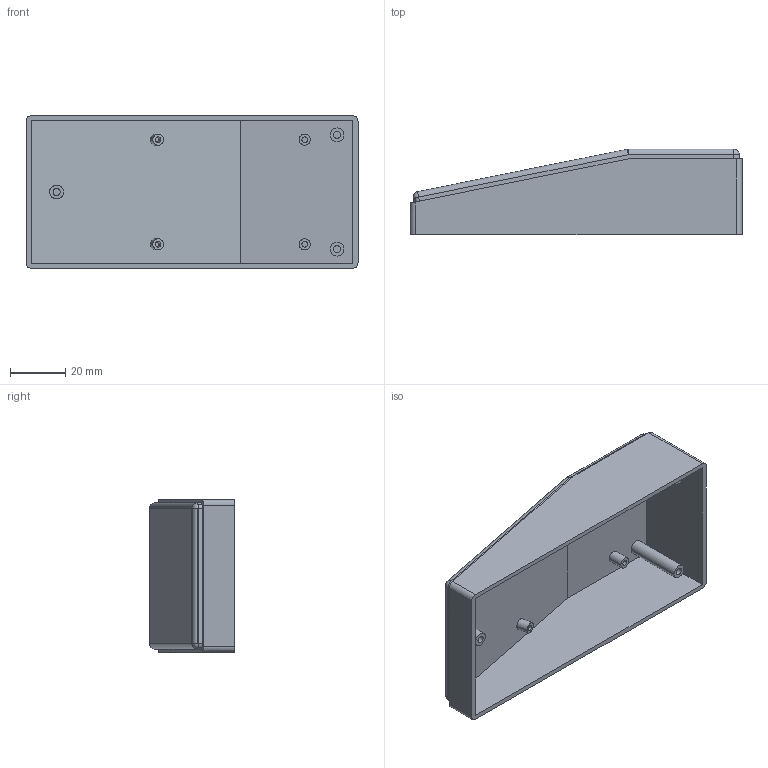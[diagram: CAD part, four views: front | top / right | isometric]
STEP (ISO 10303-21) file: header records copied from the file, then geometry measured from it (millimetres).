
FILE_DESCRIPTION (( 'STEP AP214' ), '1' );
FILE_NAME ('Cuerpo PP59.STEP', '2019-09-09T14:45:20', ( 'aaa' ), ( '' ), 'SwSTEP 2.0', 'SolidWorks 2014', '' );
FILE_SCHEMA (( 'AUTOMOTIVE_DESIGN' ));
Length unit declared in the file: millimetre
Products named in the file (1): Cuerpo PP59
Bounding box: 120.5 x 31 x 55.4 mm (x, y, z)
Volume: 28987.4 mm3; surface area: 31154.6 mm2
Topology: 1 solids, 1 shells, 85 faces, 190 edges, 118 vertices
Faces by surface type: cylinder 46, plane 33, sphere 6
Entity records: 2378 total; most frequent: DIRECTION 442, CARTESIAN_POINT 402, ORIENTED_EDGE 372, EDGE_CURVE 186, AXIS2_PLACEMENT_3D 174, VERTEX_POINT 118, EDGE_LOOP 100, LINE 94
